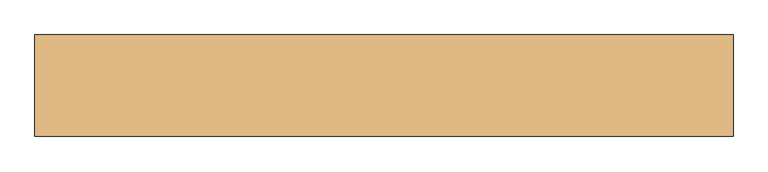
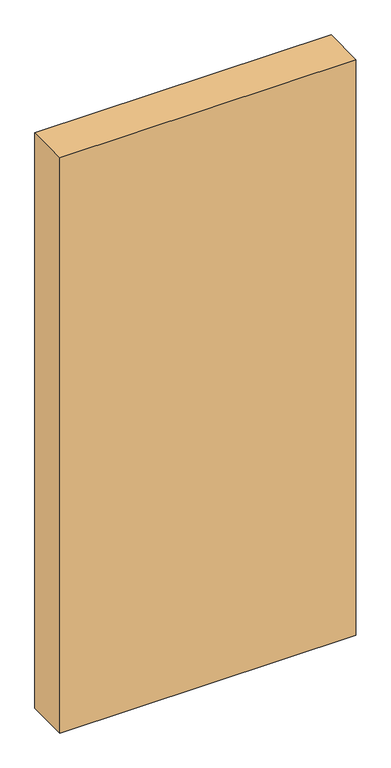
"""IFC4 building model written with IfcOpenShell, lengths in millimetres: door geometry, Dr_Проем-Простой : ПР."""

from ifc_helpers import new_model, si_unit, frame, origin, place, context, project, spatial, polyline, outline, extrude, source, transform, mapped, element, save


def door_673f646d(model_context):
    return source(origin(), model_context, "Body", "SweptSolid", [
        extrude(outline(polyline([(755.3230163, 80.0), (755.3230163, -80.0), (-344.6769837, -80.0), (-344.6769837, 80.0), (755.3230163, 80.0)])), frame((0.0, 0.0, -50.0), z_axis=(0.0, 0.0, 1.0), x_axis=(1.0, 0.0, 0.0)), (0.0, 0.0, 1.0), 2260.0),
    ])


if __name__ == "__main__":
    model = new_model("IFC4")
    model_context = context("Model", 3, world=origin())
    ifc_project = project(units=[si_unit("LENGTHUNIT", "METRE", prefix="MILLI")], contexts=[model_context])
    site = spatial("IfcSite", under=ifc_project)
    building = spatial("IfcBuilding", under=site)
    placement = place(None, origin())
    door_shape = door_673f646d(model_context)
    element("IfcDoor", 1, ObjectType="Dr_Проем-Простой : ПР", at=placement, inside=building, context=model_context, shape_type="MappedRepresentation", body=[
        mapped(door_shape, transform((0.0, 0.0, 0.0), x_axis=(1.0, 0.0, 0.0), y_axis=(0.0, 1.0, 0.0), z_axis=(0.0, 0.0, 1.0))),
    ])
    save(model, "model.ifc")
